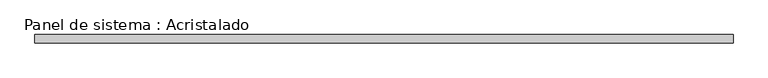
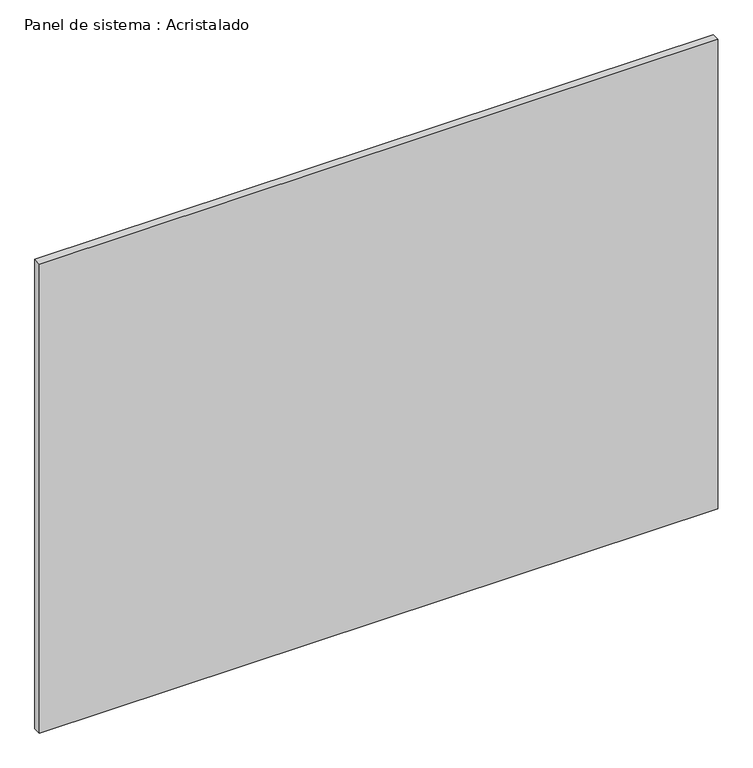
"""IFC4 building model written with IfcOpenShell, lengths in millimetres: plate geometry, Panel de sistema : Acristalado."""

from ifc_helpers import new_model, si_unit, origin, origin_with_axes, place, context, project, spatial, polyline, outline, extrude, source, transform, mapped, element, save


def panel_de_sistema_acristalado_cf7fcd3a(model_context):
    return source(origin(), model_context, "Body", "SweptSolid", [
        extrude(outline(polyline([(861.4917777, -10.0), (-861.4917777, -10.0), (-861.4917777, 10.0), (861.4917777, 10.0), (861.4917777, -10.0)])), origin_with_axes(), (0.0, 0.0, 1.0), 1260.0),
    ])


if __name__ == "__main__":
    model = new_model("IFC4")
    model_context = context("Model", 3, world=origin())
    ifc_project = project(units=[si_unit("LENGTHUNIT", "METRE", prefix="MILLI")], contexts=[model_context])
    site = spatial("IfcSite", under=ifc_project)
    building = spatial("IfcBuilding", under=site)
    placement = place(None, origin())
    panel_de_sistema_acristalado_shape = panel_de_sistema_acristalado_cf7fcd3a(model_context)
    element("IfcPlate", 1, ObjectType="Panel de sistema : Acristalado", at=placement, inside=building, context=model_context, shape_type="MappedRepresentation", body=[
        mapped(panel_de_sistema_acristalado_shape, transform((0.0, 0.0, 0.0), x_axis=(1.0, 0.0, 0.0), y_axis=(0.0, 1.0, 0.0), z_axis=(0.0, 0.0, 1.0))),
    ])
    save(model, "model.ifc")
